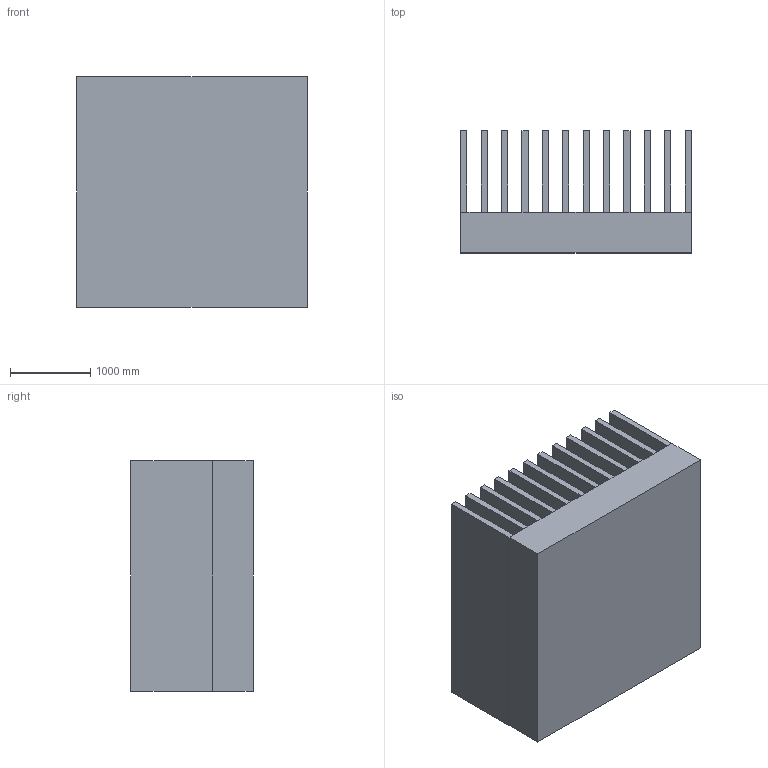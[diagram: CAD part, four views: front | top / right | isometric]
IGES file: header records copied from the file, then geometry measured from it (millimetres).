
Start section: /COM,ANSYS RELEASE  9.0    UP20041104       12:25:20    01/22/2006 /NOPR /PREP7 /TITLE, BFUNIF,TEMP,_TINY KUSE,0 TIME,0.00000000 TREF,0.00000000 ALPHAD,0.00000000 BETAD,0.00000000 DMPRAT,0.00000000 CRPLIM,0.100000000,0 CRPLIM,0.00000000,1 NCNV,1,0.00000000,0,0.00000000,0.00000000 NEQIT,0 ERESX,DEFA ACEL,0.00000000,0.00000000,0.00000000 OMEGA,0.00000000,0.00000000,0.00000000,0 DOMEGA,0.00000000,0.0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
Global section: file name: EX6-1.iges; native system: ANSYS; preprocessor:   9.0      UP20041104; date: 000122.122520
Bounding box: 2870.2 x 1524 x 2870.2 mm (x, y, z)
Volume: 6851431458.4 mm3; surface area: 99402381.8 mm2
Topology: 13 solids, 13 shells, 100 faces, 222 edges, 148 vertices
Faces by surface type: bspline 100
